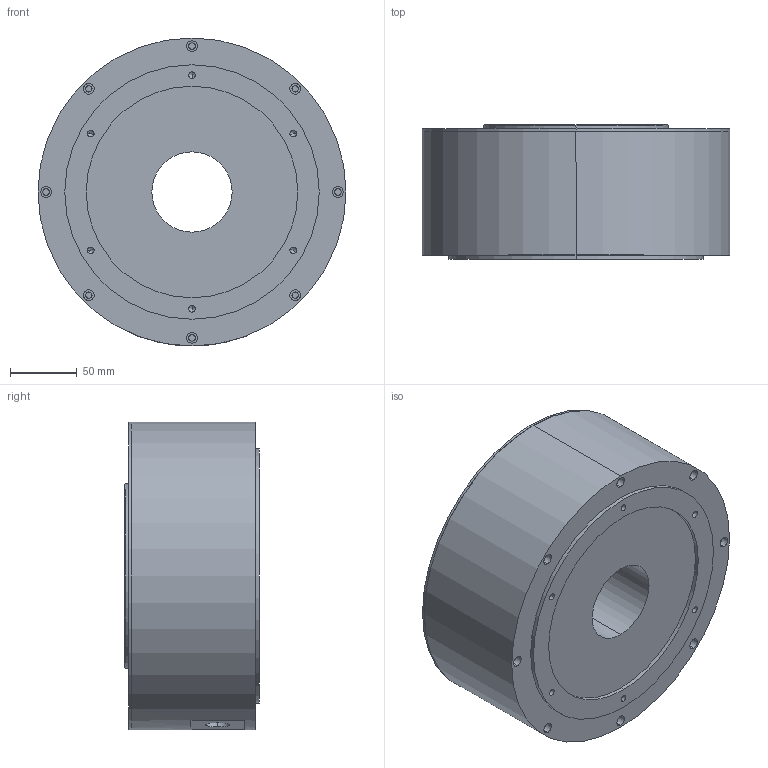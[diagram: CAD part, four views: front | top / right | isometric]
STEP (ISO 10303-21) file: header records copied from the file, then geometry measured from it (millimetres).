
FILE_DESCRIPTION((''),'2;1');
FILE_NAME('PM-DDD22D','2016-02-05T',('jb17719'),(''),'PRO/ENGINEER BY PARAMETRIC TECHNOLOGY CORPORATION, 2008070','PRO/ENGINEER BY PARAMETRIC TECHNOLOGY CORPORATION, 2008070','');
FILE_SCHEMA(('AUTOMOTIVE_DESIGN_CC2 { 1 2 10303 214 -1 1 5 2 }'));
Length unit declared in the file: millimetre
Products named in the file (1): PM-DDD22D
Bounding box: 230 x 100.5 x 230 mm (x, y, z)
Volume: 3666723.2 mm3; surface area: 218393.9 mm2
Topology: 2 solids, 2 shells, 247 faces, 550 edges, 342 vertices
Faces by surface type: cylinder 140, plane 53, cone 52, torus 2
Entity records: 7155 total; most frequent: DIRECTION 1340, CARTESIAN_POINT 1179, ORIENTED_EDGE 1052, AXIS2_PLACEMENT_3D 571, EDGE_CURVE 526, VERTEX_POINT 342, EDGE_LOOP 338, CIRCLE 324
